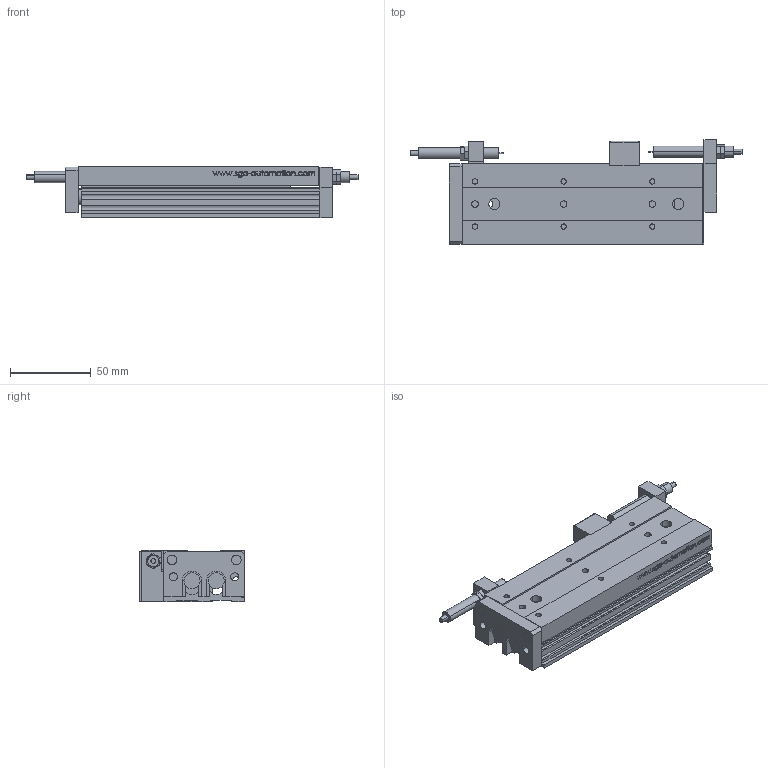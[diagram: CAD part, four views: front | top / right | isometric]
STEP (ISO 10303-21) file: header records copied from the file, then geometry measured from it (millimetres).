
FILE_DESCRIPTION (( 'STEP AP203' ), '1' );
FILE_NAME ('GDX 12-75.STEP', '2013-02-25T09:24:01', ( 'Conseil Régional Haute-Normandie' ), ( 'Conseil Régional Haute-Normandie' ), 'SwSTEP 2.0', 'SolidWorks 2010', '' );
FILE_SCHEMA (( 'CONFIG_CONTROL_DESIGN' ));
Length unit declared in the file: millimetre
Products named in the file (14): GDX 12-75; GDX12-10 Pièce3_Default; GDX12-10 pièce 1; GDX25-10 Pièce12_Default; GDX25-10 Pièce13_Default; GDX12-50 Pièce11_Default; GDX12-75 Pièce7_Default; GDX25-75 Pièce8_Default; GDX25-75 Pièce9_Default; GDX12-75 Pièce6_Default; GDX12-10 Pièce 2; GDX12-10 Pièce 4; GDX 12-10 Pièce5_Default; GDX25-10 Pièce14_Default
Assembly tree (27 placements, depth 2):
  GDX 12-75
    GDX12-10 Pièce 2
    GDX25-10 Pièce12_Default  x4
    GDX25-10 Pièce13_Default  x8
    GDX12-50 Pièce11_Default  x2
    GDX12-10 pièce 1
    GDX25-10 Pièce14_Default  x2
    GDX12-75 Pièce7_Default
    GDX 12-10 Pièce5_Default  x2
    GDX12-10 Pièce 4
    GDX25-75 Pièce9_Default
    GDX12-75 Pièce6_Default
    GDX25-75 Pièce8_Default  x2
    GDX12-10 Pièce3_Default
Bounding box: 205.91 x 65 x 32 mm (x, y, z)
Volume: 206944.3 mm3; surface area: 97670.8 mm2
Topology: 27 solids, 27 shells, 756 faces, 1922 edges, 1258 vertices
Faces by surface type: plane 389, cylinder 206, bspline 133, cone 24, torus 4
Entity records: 31688 total; most frequent: CARTESIAN_POINT 14692, ORIENTED_EDGE 3292, DIRECTION 2732, EDGE_CURVE 1646, VERTEX_POINT 1090, LINE 1076, VECTOR 1076, AXIS2_PLACEMENT_3D 828
